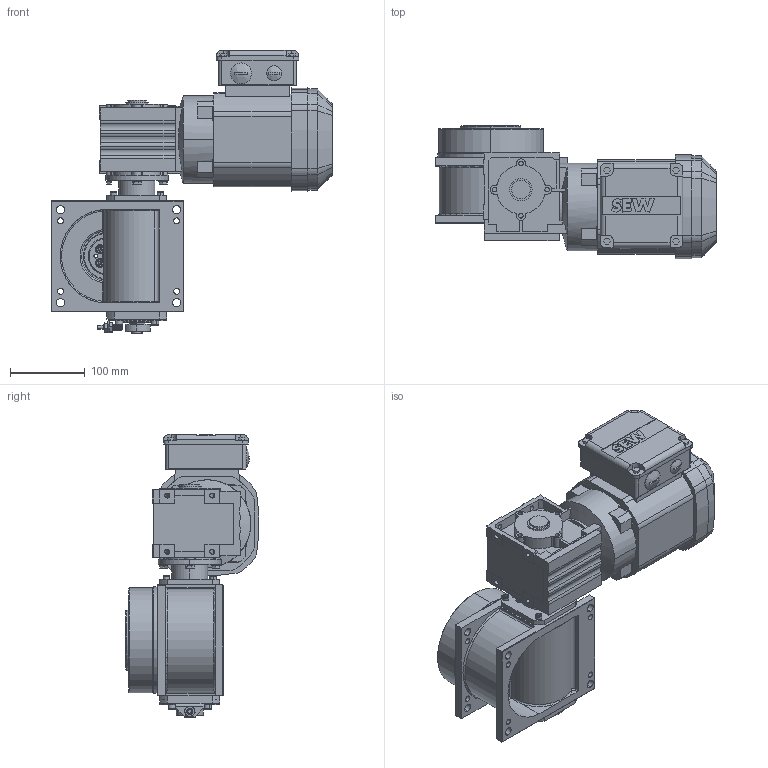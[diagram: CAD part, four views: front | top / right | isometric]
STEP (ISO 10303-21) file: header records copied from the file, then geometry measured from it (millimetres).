
FILE_DESCRIPTION (( 'STEP AP214' ), '1' );
FILE_NAME ('M140_SEW_WA20DRS71S4_E3.STEP', '2021-01-22T15:29:39', ( '' ), ( '' ), 'SwSTEP 2.0', 'SolidWorks 2020', '' );
FILE_SCHEMA (( 'AUTOMOTIVE_DESIGN' ));
Length unit declared in the file: millimetre
Products named in the file (1): M140_SEW_WA20DRS71S4_E3
Bounding box: 375 x 178.34 x 377.75 mm (x, y, z)
Surface area: 415894.2 mm2 (no closed solid volume)
Topology: 0 solids, 47 shells, 1124 faces, 3464 edges, 2309 vertices
Faces by surface type: plane 512, cylinder 401, cone 93, bspline 68, torus 50
Entity records: 57783 total; most frequent: CARTESIAN_POINT 15113, DIRECTION 6262, ORIENTED_EDGE 6013, EDGE_CURVE 3445, VERTEX_POINT 2309, AXIS2_PLACEMENT_3D 2189, LINE 1884, VECTOR 1884
